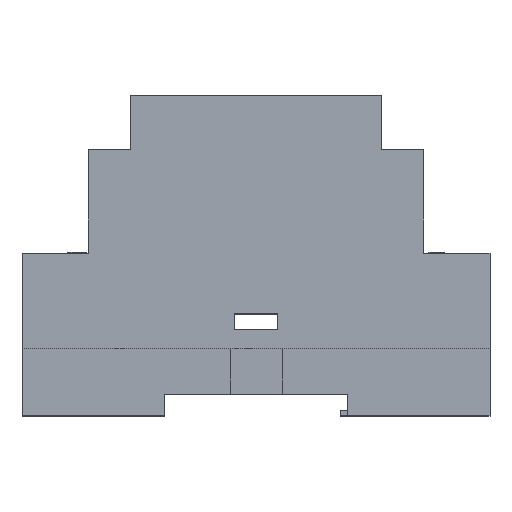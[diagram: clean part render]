
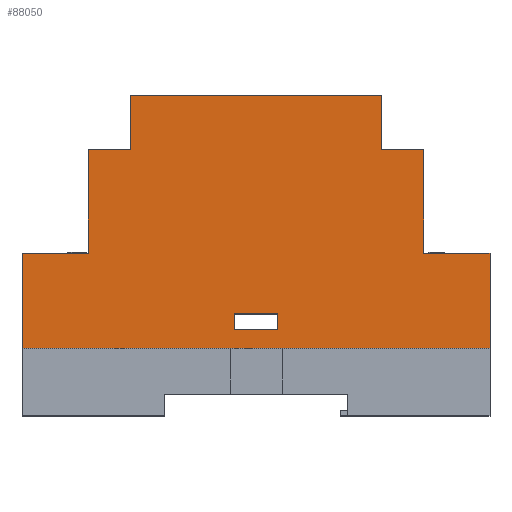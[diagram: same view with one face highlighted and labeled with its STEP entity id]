
A CAD part, top view. The second image highlights one B-rep face of the part: STEP entity #88050.
In plain terms, the highlighted planar face has unit normal (0, 0, 1).
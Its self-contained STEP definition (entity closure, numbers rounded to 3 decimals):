
#1095 = ORIENTED_EDGE ( 'NONE', *, *, #109704, .T. ) ;
#2347 = EDGE_CURVE ( 'NONE', #107220, #54522, #97903, .T. ) ;
#3432 = VERTEX_POINT ( 'NONE', #10142 ) ;
#5258 = ORIENTED_EDGE ( 'NONE', *, *, #115485, .T. ) ;
#6279 = VECTOR ( 'NONE', #109949, 1000. ) ;
#6718 = VERTEX_POINT ( 'NONE', #74723 ) ;
#7815 = CARTESIAN_POINT ( 'NONE',  ( 45., 18.3, 37.3 ) ) ;
#8062 = CARTESIAN_POINT ( 'NONE',  ( 24.1, 48.6, 37.3 ) ) ;
#8101 = DIRECTION ( 'NONE',  ( 0., 0., -1. ) ) ;
#8846 = VECTOR ( 'NONE', #108312, 1000. ) ;
#10142 = CARTESIAN_POINT ( 'NONE',  ( 4.15, 3.58, 37.3 ) ) ;
#10668 = VERTEX_POINT ( 'NONE', #103346 ) ;
#11039 = ORIENTED_EDGE ( 'NONE', *, *, #38593, .T. ) ;
#12509 = ORIENTED_EDGE ( 'NONE', *, *, #71564, .T. ) ;
#13387 = CARTESIAN_POINT ( 'NONE',  ( -45., 18.3, 37.3 ) ) ;
#13662 = EDGE_CURVE ( 'NONE', #54522, #117559, #35313, .T. ) ;
#14270 = EDGE_CURVE ( 'NONE', #55487, #97414, #116833, .T. ) ;
#14778 = VECTOR ( 'NONE', #41665, 1000. ) ;
#14981 = DIRECTION ( 'NONE',  ( -1., 0., 0. ) ) ;
#15238 = LINE ( 'NONE', #37337, #102902 ) ;
#15364 = EDGE_CURVE ( 'NONE', #94017, #62016, #61978, .T. ) ;
#16902 = ORIENTED_EDGE ( 'NONE', *, *, #14270, .T. ) ;
#18620 = LINE ( 'NONE', #89785, #59521 ) ;
#22331 = VECTOR ( 'NONE', #54612, 1000. ) ;
#22463 = VECTOR ( 'NONE', #95839, 1000. ) ;
#23472 = LINE ( 'NONE', #50966, #22463 ) ;
#23551 = VECTOR ( 'NONE', #62542, 1000. ) ;
#24841 = PLANE ( 'NONE',  #33637 ) ;
#26077 = CARTESIAN_POINT ( 'NONE',  ( 24.1, 48.6, 37.3 ) ) ;
#30739 = CARTESIAN_POINT ( 'NONE',  ( -32.25, 38.3, 37.3 ) ) ;
#30801 = EDGE_CURVE ( 'NONE', #62016, #107220, #88680, .T. ) ;
#32181 = ORIENTED_EDGE ( 'NONE', *, *, #75297, .T. ) ;
#32501 = EDGE_LOOP ( 'NONE', ( #11039, #16902, #12509, #5258 ) ) ;
#33637 = AXIS2_PLACEMENT_3D ( 'NONE', #118137, #8101, #81060 ) ;
#34724 = VERTEX_POINT ( 'NONE', #41197 ) ;
#34862 = CARTESIAN_POINT ( 'NONE',  ( -45., 18.3, 37.3 ) ) ;
#35206 = VERTEX_POINT ( 'NONE', #71477 ) ;
#35313 = LINE ( 'NONE', #7815, #8846 ) ;
#37337 = CARTESIAN_POINT ( 'NONE',  ( -24.1, 48.6, 37.3 ) ) ;
#37478 = ORIENTED_EDGE ( 'NONE', *, *, #2347, .T. ) ;
#37546 = LINE ( 'NONE', #63849, #6279 ) ;
#37618 = CARTESIAN_POINT ( 'NONE',  ( 32.25, 38.3, 37.3 ) ) ;
#38225 = LINE ( 'NONE', #55593, #96557 ) ;
#38593 = EDGE_CURVE ( 'NONE', #3432, #55487, #108574, .T. ) ;
#41197 = CARTESIAN_POINT ( 'NONE',  ( 24.1, 38.3, 37.3 ) ) ;
#41665 = DIRECTION ( 'NONE',  ( -1., 0., 0. ) ) ;
#41738 = VERTEX_POINT ( 'NONE', #92867 ) ;
#43453 = CARTESIAN_POINT ( 'NONE',  ( -32.25, 18.3, 37.3 ) ) ;
#43867 = CARTESIAN_POINT ( 'NONE',  ( -4.15, 0., 37.3 ) ) ;
#43928 = VECTOR ( 'NONE', #77222, 1000. ) ;
#44563 = VECTOR ( 'NONE', #113286, 1000. ) ;
#44670 = ORIENTED_EDGE ( 'NONE', *, *, #15364, .T. ) ;
#45667 = EDGE_CURVE ( 'NONE', #35206, #34724, #73541, .T. ) ;
#47789 = CARTESIAN_POINT ( 'NONE',  ( -45., 0., 37.3 ) ) ;
#48013 = ORIENTED_EDGE ( 'NONE', *, *, #51013, .T. ) ;
#49831 = VECTOR ( 'NONE', #66125, 1000. ) ;
#50864 = LINE ( 'NONE', #86187, #106059 ) ;
#50966 = CARTESIAN_POINT ( 'NONE',  ( 0., 6.66, 37.3 ) ) ;
#51013 = EDGE_CURVE ( 'NONE', #117559, #41738, #94007, .T. ) ;
#53857 = CARTESIAN_POINT ( 'NONE',  ( 45., 0., 37.3 ) ) ;
#54522 = VERTEX_POINT ( 'NONE', #53857 ) ;
#54612 = DIRECTION ( 'NONE',  ( 0., 1., 0. ) ) ;
#55487 = VERTEX_POINT ( 'NONE', #59167 ) ;
#55593 = CARTESIAN_POINT ( 'NONE',  ( 24.1, 48.6, 37.3 ) ) ;
#56128 = CARTESIAN_POINT ( 'NONE',  ( 45., 18.3, 37.3 ) ) ;
#59167 = CARTESIAN_POINT ( 'NONE',  ( -4.15, 3.58, 37.3 ) ) ;
#59521 = VECTOR ( 'NONE', #82580, 1000. ) ;
#60319 = ORIENTED_EDGE ( 'NONE', *, *, #45667, .T. ) ;
#61958 = LINE ( 'NONE', #26077, #23551 ) ;
#61978 = LINE ( 'NONE', #43453, #14778 ) ;
#62016 = VERTEX_POINT ( 'NONE', #34862 ) ;
#62542 = DIRECTION ( 'NONE',  ( 0., 1., 0. ) ) ;
#63849 = CARTESIAN_POINT ( 'NONE',  ( 4.15, 0., 37.3 ) ) ;
#64360 = CARTESIAN_POINT ( 'NONE',  ( -45., 0., 37.3 ) ) ;
#65728 = DIRECTION ( 'NONE',  ( -1., 0., 0. ) ) ;
#66125 = DIRECTION ( 'NONE',  ( 1., 0., 0. ) ) ;
#67111 = ORIENTED_EDGE ( 'NONE', *, *, #100915, .T. ) ;
#68181 = ORIENTED_EDGE ( 'NONE', *, *, #85308, .T. ) ;
#71477 = CARTESIAN_POINT ( 'NONE',  ( 32.25, 38.3, 37.3 ) ) ;
#71564 = EDGE_CURVE ( 'NONE', #97414, #10668, #23472, .T. ) ;
#72012 = DIRECTION ( 'NONE',  ( 0., -1., 0. ) ) ;
#72448 = VECTOR ( 'NONE', #74052, 1000. ) ;
#73205 = VECTOR ( 'NONE', #89731, 1000. ) ;
#73541 = LINE ( 'NONE', #91504, #73205 ) ;
#74052 = DIRECTION ( 'NONE',  ( 0., 1., 0. ) ) ;
#74723 = CARTESIAN_POINT ( 'NONE',  ( -24.1, 38.3, 37.3 ) ) ;
#75297 = EDGE_CURVE ( 'NONE', #110486, #94017, #18620, .T. ) ;
#77222 = DIRECTION ( 'NONE',  ( -1., 0., 0. ) ) ;
#79559 = ORIENTED_EDGE ( 'NONE', *, *, #85067, .T. ) ;
#81049 = DIRECTION ( 'NONE',  ( -1., 0., 0. ) ) ;
#81060 = DIRECTION ( 'NONE',  ( 0., -1., 0. ) ) ;
#82580 = DIRECTION ( 'NONE',  ( 0., -1., 0. ) ) ;
#84982 = CARTESIAN_POINT ( 'NONE',  ( -4.15, 6.66, 37.3 ) ) ;
#85067 = EDGE_CURVE ( 'NONE', #6718, #110486, #50864, .T. ) ;
#85308 = EDGE_CURVE ( 'NONE', #105359, #102929, #38225, .T. ) ;
#86187 = CARTESIAN_POINT ( 'NONE',  ( -24.1, 38.3, 37.3 ) ) ;
#88050 = ADVANCED_FACE ( 'NONE', ( #90021, #99596 ), #24841, .F. ) ;
#88680 = LINE ( 'NONE', #13387, #44563 ) ;
#89419 = CARTESIAN_POINT ( 'NONE',  ( 0., 3.58, 37.3 ) ) ;
#89731 = DIRECTION ( 'NONE',  ( -1., 0., 0. ) ) ;
#89785 = CARTESIAN_POINT ( 'NONE',  ( -32.25, 38.3, 37.3 ) ) ;
#90021 = FACE_BOUND ( 'NONE', #32501, .T. ) ;
#91504 = CARTESIAN_POINT ( 'NONE',  ( 24.1, 38.3, 37.3 ) ) ;
#92867 = CARTESIAN_POINT ( 'NONE',  ( 32.25, 18.3, 37.3 ) ) ;
#94007 = LINE ( 'NONE', #94613, #43928 ) ;
#94017 = VERTEX_POINT ( 'NONE', #105574 ) ;
#94613 = CARTESIAN_POINT ( 'NONE',  ( 32.25, 18.3, 37.3 ) ) ;
#95839 = DIRECTION ( 'NONE',  ( 1., 0., 0. ) ) ;
#96557 = VECTOR ( 'NONE', #65728, 1000. ) ;
#97414 = VERTEX_POINT ( 'NONE', #84982 ) ;
#97656 = ORIENTED_EDGE ( 'NONE', *, *, #98601, .T. ) ;
#97903 = LINE ( 'NONE', #64360, #49831 ) ;
#98601 = EDGE_CURVE ( 'NONE', #102929, #6718, #15238, .T. ) ;
#99128 = ORIENTED_EDGE ( 'NONE', *, *, #30801, .T. ) ;
#99596 = FACE_OUTER_BOUND ( 'NONE', #108640, .T. ) ;
#100915 = EDGE_CURVE ( 'NONE', #41738, #35206, #102205, .T. ) ;
#102205 = LINE ( 'NONE', #37618, #72448 ) ;
#102902 = VECTOR ( 'NONE', #72012, 1000. ) ;
#102929 = VERTEX_POINT ( 'NONE', #110206 ) ;
#103346 = CARTESIAN_POINT ( 'NONE',  ( 4.15, 6.66, 37.3 ) ) ;
#105359 = VERTEX_POINT ( 'NONE', #8062 ) ;
#105410 = VECTOR ( 'NONE', #81049, 1000. ) ;
#105574 = CARTESIAN_POINT ( 'NONE',  ( -32.25, 18.3, 37.3 ) ) ;
#106059 = VECTOR ( 'NONE', #14981, 1000. ) ;
#107220 = VERTEX_POINT ( 'NONE', #47789 ) ;
#108312 = DIRECTION ( 'NONE',  ( 0., 1., 0. ) ) ;
#108574 = LINE ( 'NONE', #89419, #105410 ) ;
#108640 = EDGE_LOOP ( 'NONE', ( #97656, #79559, #32181, #44670, #99128, #37478, #109140, #48013, #67111, #60319, #1095, #68181 ) ) ;
#109140 = ORIENTED_EDGE ( 'NONE', *, *, #13662, .T. ) ;
#109704 = EDGE_CURVE ( 'NONE', #34724, #105359, #61958, .T. ) ;
#109949 = DIRECTION ( 'NONE',  ( 0., -1., 0. ) ) ;
#110206 = CARTESIAN_POINT ( 'NONE',  ( -24.1, 48.6, 37.3 ) ) ;
#110486 = VERTEX_POINT ( 'NONE', #30739 ) ;
#113286 = DIRECTION ( 'NONE',  ( 0., -1., 0. ) ) ;
#115485 = EDGE_CURVE ( 'NONE', #10668, #3432, #37546, .T. ) ;
#116833 = LINE ( 'NONE', #43867, #22331 ) ;
#117559 = VERTEX_POINT ( 'NONE', #56128 ) ;
#118137 = CARTESIAN_POINT ( 'NONE',  ( 0., 0., 37.3 ) ) ;
